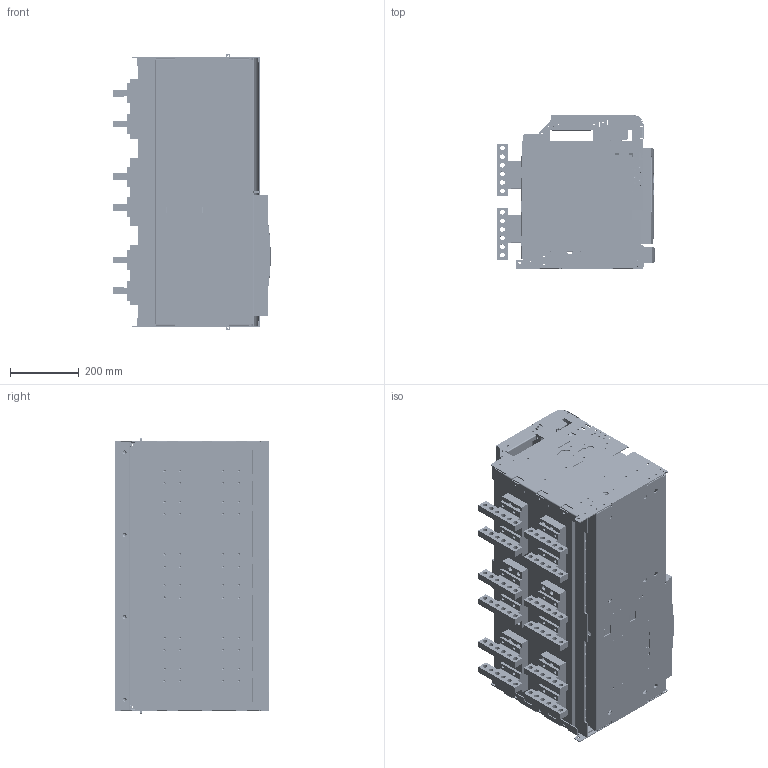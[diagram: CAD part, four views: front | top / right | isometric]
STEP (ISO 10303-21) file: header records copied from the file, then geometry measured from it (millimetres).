
FILE_DESCRIPTION (( 'STEP AP214' ), '1' );
FILE_NAME ('OptiMat A-S6-B-6300-3P-D-V.STEP', '2025-02-10T11:16:08', ( '' ), ( '' ), 'SwSTEP 2.0', 'SolidWorks 2018', '' );
FILE_SCHEMA (( 'AUTOMOTIVE_DESIGN' ));
Length unit declared in the file: millimetre
Products named in the file (1): OptiMat A-S6-B-6300-3P-D-V
Bounding box: 458.5 x 447.5 x 802 mm (x, y, z)
Volume: 91535141 mm3; surface area: 3778810.2 mm2
Topology: 6 solids, 99 shells, 5842 faces, 15035 edges, 9604 vertices
Faces by surface type: plane 2894, cylinder 2217, cone 362, bspline 189, torus 140, sphere 40
Entity records: 255208 total; most frequent: CARTESIAN_POINT 50686, DIRECTION 30147, ORIENTED_EDGE 29810, EDGE_CURVE 14905, AXIS2_PLACEMENT_3D 10528, VERTEX_POINT 9598, VECTOR 9091, LINE 9091
